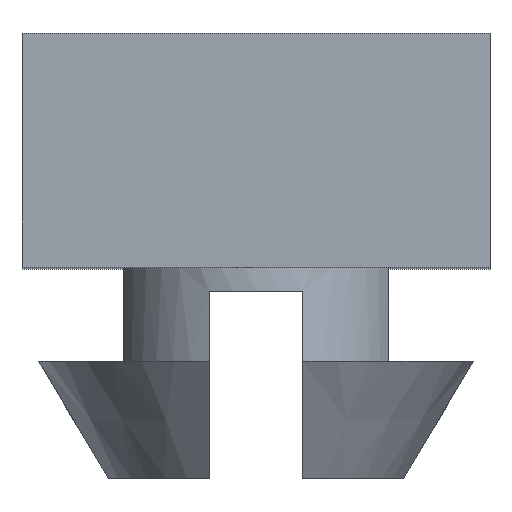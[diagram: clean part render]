
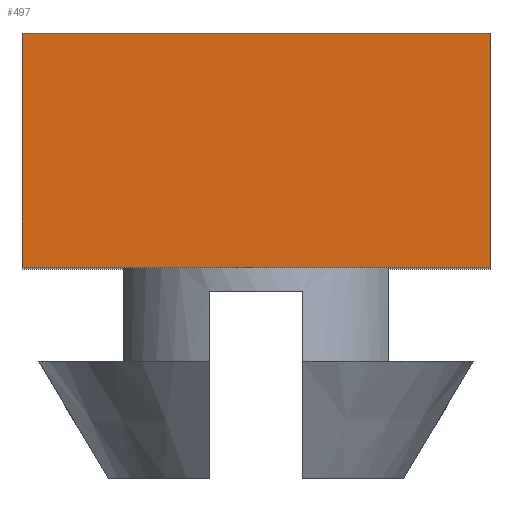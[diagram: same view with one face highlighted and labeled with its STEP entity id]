
A CAD part, top view. The second image highlights one B-rep face of the part: STEP entity #497.
In plain terms, the highlighted planar face has unit normal (0, 0, 1).
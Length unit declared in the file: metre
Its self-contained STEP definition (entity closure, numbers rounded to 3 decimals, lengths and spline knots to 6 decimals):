
#32=PLANE('',#552);
#65=LINE('',#819,#113);
#68=LINE('',#825,#116);
#69=LINE('',#827,#117);
#70=LINE('',#829,#118);
#113=VECTOR('',#644,1.);
#116=VECTOR('',#649,1.);
#117=VECTOR('',#650,1.);
#118=VECTOR('',#651,1.);
#195=ORIENTED_EDGE('',*,*,#330,.T.);
#196=ORIENTED_EDGE('',*,*,#331,.F.);
#197=ORIENTED_EDGE('',*,*,#332,.F.);
#198=ORIENTED_EDGE('',*,*,#327,.T.);
#327=EDGE_CURVE('',#391,#389,#65,.T.);
#330=EDGE_CURVE('',#389,#393,#68,.T.);
#331=EDGE_CURVE('',#394,#393,#69,.T.);
#332=EDGE_CURVE('',#391,#394,#70,.T.);
#389=VERTEX_POINT('',#817);
#391=VERTEX_POINT('',#820);
#393=VERTEX_POINT('',#826);
#394=VERTEX_POINT('',#828);
#435=EDGE_LOOP('',(#195,#196,#197,#198));
#465=FACE_BOUND('',#435,.T.);
#497=ADVANCED_FACE('',(#465),#32,.F.);
#552=AXIS2_PLACEMENT_3D('',#824,#647,#648);
#644=DIRECTION('',(0.,-1.,0.));
#647=DIRECTION('',(0.,0.,-1.));
#648=DIRECTION('',(0.,1.,0.));
#649=DIRECTION('',(1.,0.,0.));
#650=DIRECTION('',(0.,-1.,0.));
#651=DIRECTION('',(1.,0.,0.));
#817=CARTESIAN_POINT('',(-0.0625,0.064,0.0225));
#819=CARTESIAN_POINT('',(-0.0625,0.074,0.0225));
#820=CARTESIAN_POINT('',(-0.0625,0.074,0.0225));
#824=CARTESIAN_POINT('',(-0.0525,0.074,0.0225));
#825=CARTESIAN_POINT('',(-0.0525,0.064,0.0225));
#826=CARTESIAN_POINT('',(-0.0425,0.064,0.0225));
#827=CARTESIAN_POINT('',(-0.0425,0.074,0.0225));
#828=CARTESIAN_POINT('',(-0.0425,0.074,0.0225));
#829=CARTESIAN_POINT('',(-0.0525,0.074,0.0225));
